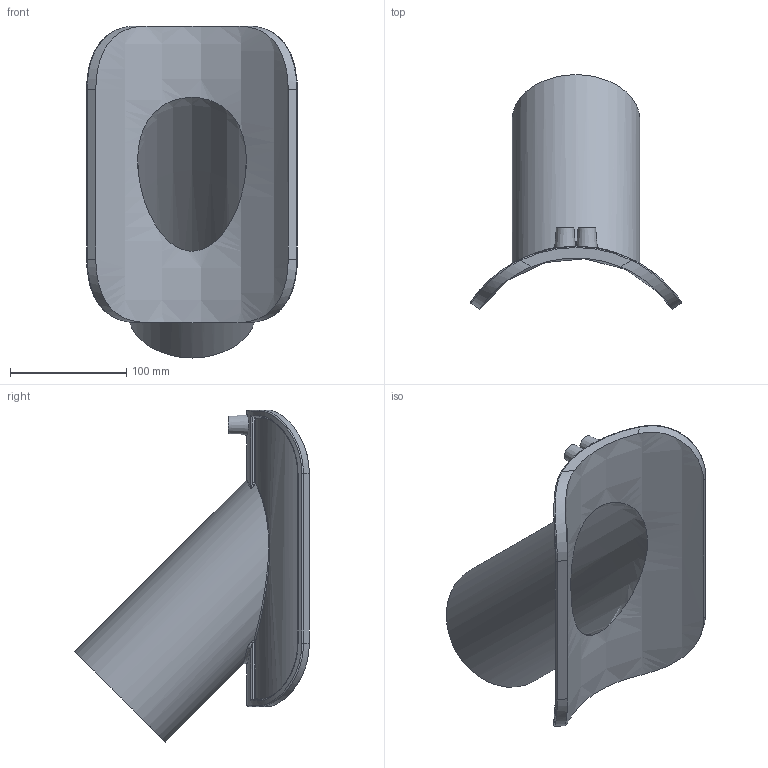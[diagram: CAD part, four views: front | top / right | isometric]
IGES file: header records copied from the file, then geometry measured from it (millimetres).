
Global section: file name: 4758A4160110.ipt; native system: Autodesk Inventor 2015; preprocessor: unknown; author: Кирилл,,11,0; organization: 20170830.202409; date: 20171106.093502; units: millimetre
Bounding box: 181.21 x 201.82 x 285.5 mm (x, y, z)
Volume: 723690.9 mm3; surface area: 199520.5 mm2
Topology: 1 solids, 1 shells, 93 faces, 216 edges, 132 vertices
Faces by surface type: bspline 28, revolution 24, plane 21, cylinder 18, cone 2
Full cylindrical faces by diameter (mm): 4 x2, 110 x1
